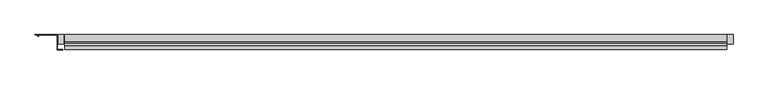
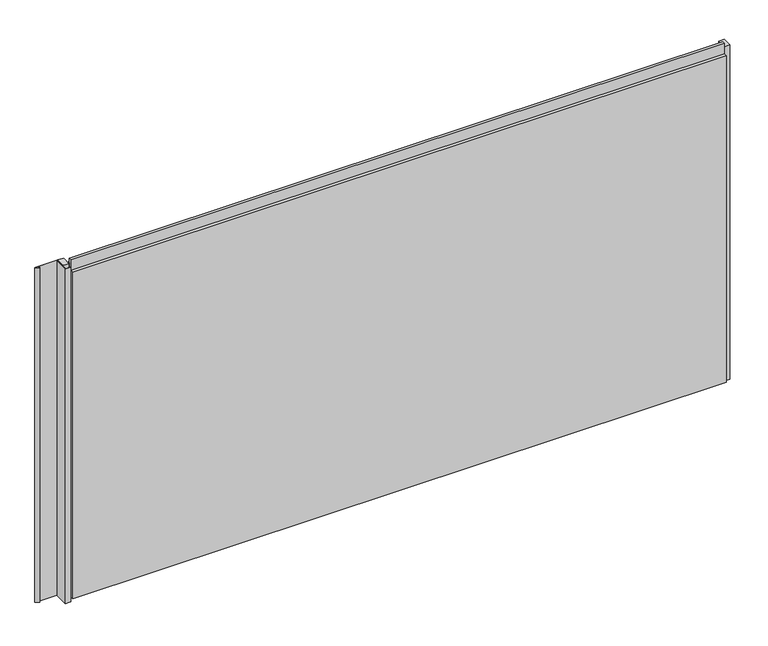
"""IFC4 building model written with IfcOpenShell, lengths in millimetres: plate geometry, Trimo_Qbiss Screen_Normal Panel-HORIZONTAL : HR - B-F."""

from ifc_helpers import new_model, si_unit, frame, origin, place, context, project, spatial, polyline, outline, extrude, source, transform, mapped, element, save


def plate_a7947a21(model_context):
    return source(origin(), model_context, "Body", "SweptSolid", [
        extrude(outline(polyline([(-1119.0, 100.0), (-1119.0, 50.0), (-1101.5, 50.0), (-1101.5, 49.2), (-1119.8, 49.2), (-1119.8, 99.1967741), (-1191.008772, 99.1967741), (-1181.4756443, 93.6928203), (-1181.8756443, 93.0), (-1194.0, 100.0), (-1119.0, 100.0)])), frame((0.0, 0.0, -1.0), z_axis=(0.0, 0.0, 1.0), x_axis=(1.0, 0.0, 0.0)), (0.0, 0.0, 1.0), 1200.0),
        extrude(outline(polyline([(-1097.0, 67.8978162), (-1116.0, 67.8978162), (-1116.0, 100.0), (-1097.0, 100.0), (-1097.0, 67.8978162)])), frame((0.0, 0.0, -1.0), z_axis=(0.0, 0.0, 1.0), x_axis=(1.0, 0.0, 0.0)), (0.0, 0.0, 1.0), 1200.0),
        extrude(outline(polyline([(1144.5, 67.8978162), (1125.5, 67.8978162), (1125.5, 100.0), (1144.5, 100.0), (1144.5, 67.8978162)])), frame((0.0, 0.0, -1.0), z_axis=(0.0, 0.0, 1.0), x_axis=(1.0, 0.0, 0.0)), (0.0, 0.0, 1.0), 1200.0),
        extrude(outline(polyline([(1122.5, 76.0), (1122.5, 71.0), (-1094.0, 71.0), (-1094.0, 76.0), (1122.5, 76.0)])), frame((0.0, 0.0, 1178.0), z_axis=(0.0, 0.0, 1.0), x_axis=(1.0, 0.0, 0.0)), (0.0, 0.0, 1.0), 21.0),
        extrude(outline(polyline([(71.0, 1177.0), (100.0, 1177.0), (100.0, 0.0), (72.0, 0.0), (72.0, 15.5), (62.0, 15.5), (62.0, 7.0), (50.0, 7.0), (50.0, 1177.0), (63.0, 1177.0), (63.0, 1214.5), (71.0, 1214.5), (71.0, 1177.0)])), frame((-1094.0, 0.0, 0.0), z_axis=(1.0, 0.0, 0.0), x_axis=(0.0, 1.0, 0.0)), (0.0, 0.0, 1.0), 2216.5),
    ])


if __name__ == "__main__":
    model = new_model("IFC4")
    model_context = context("Model", 3, world=origin())
    ifc_project = project(units=[si_unit("LENGTHUNIT", "METRE", prefix="MILLI")], contexts=[model_context])
    site = spatial("IfcSite", under=ifc_project)
    building = spatial("IfcBuilding", under=site)
    placement = place(None, origin())
    plate_shape = plate_a7947a21(model_context)
    element("IfcPlate", 1, ObjectType="Trimo_Qbiss Screen_Normal Panel-HORIZONTAL : HR - B-F", at=placement, inside=building, context=model_context, shape_type="MappedRepresentation", body=[
        mapped(plate_shape, transform((0.0, 0.0, 0.0), x_axis=(1.0, 0.0, 0.0), y_axis=(0.0, 1.0, 0.0), z_axis=(0.0, 0.0, 1.0))),
    ])
    save(model, "model.ifc")
